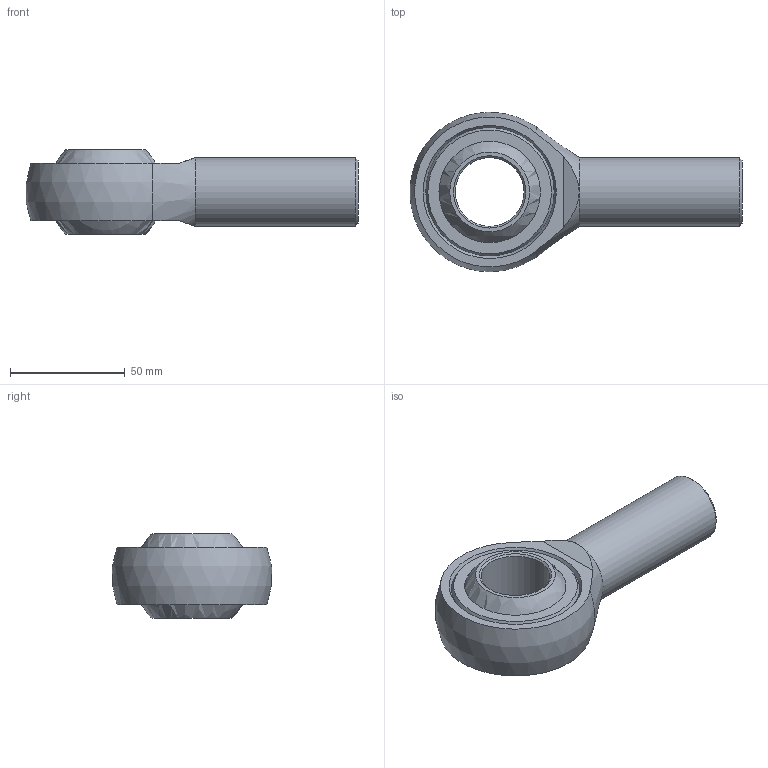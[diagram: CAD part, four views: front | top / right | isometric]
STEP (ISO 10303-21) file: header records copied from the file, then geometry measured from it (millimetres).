
FILE_DESCRIPTION (( 'STEP AP214' ), '1' );
FILE_NAME ('HL-3-003 10t.STEP', '2025-06-10T10:33:03', ( '' ), ( '' ), 'SwSTEP 2.0', 'SolidWorks 2023', '' );
FILE_SCHEMA (( 'AUTOMOTIVE_DESIGN' ));
Length unit declared in the file: millimetre
Products named in the file (4): Rod End GAXSW 30 M 30x2(0)-1; Rod End GAXSW 30 M 30x2(0)-2; FLURO_midpart; HL-3-003 10t
Assembly tree (2 placements, depth 2):
  FLURO_midpart
  HL-3-003 10t
    Rod End GAXSW 30 M 30x2(0)-1
    Rod End GAXSW 30 M 30x2(0)-2
Bounding box: 144.74 x 69.45 x 37 mm (x, y, z)
Volume: 128345.7 mm3; surface area: 32119.2 mm2
Topology: 2 solids, 2 shells, 27 faces, 51 edges, 34 vertices
Faces by surface type: plane 11, cone 9, sphere 5, cylinder 2
Full cylindrical faces by diameter (mm): 30 x2
Entity records: 1234 total; most frequent: CARTESIAN_POINT 416, DIRECTION 114, ORIENTED_EDGE 72, AXIS2_PLACEMENT_3D 56, EDGE_LOOP 48, EDGE_CURVE 36, FACE_OUTER_BOUND 33, VERTEX_POINT 30
